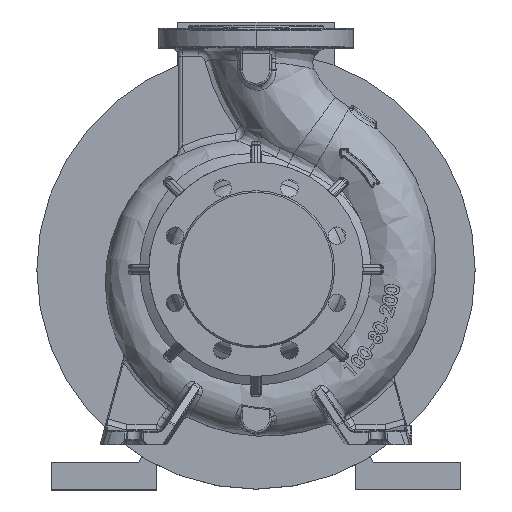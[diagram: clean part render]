
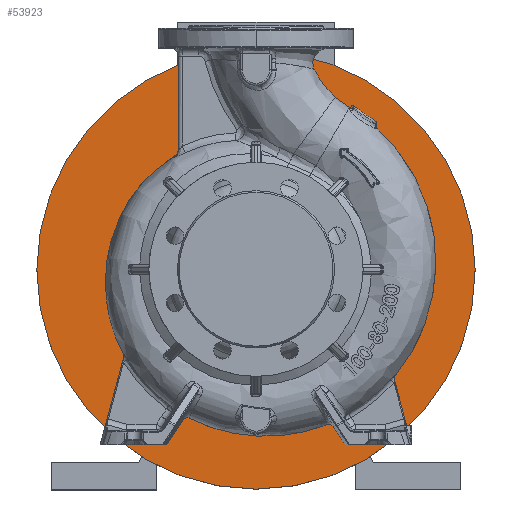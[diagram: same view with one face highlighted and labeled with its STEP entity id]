
A CAD part, top view. The second image highlights one B-rep face of the part: STEP entity #53923.
In plain terms, the highlighted planar face has unit normal (0, 0, 1).
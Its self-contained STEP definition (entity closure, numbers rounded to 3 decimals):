
#293 = ORIENTED_EDGE ( 'NONE', *, *, #24860, .T. ) ;
#4317 = CARTESIAN_POINT ( 'NONE',  ( -125., 0., -273.8 ) ) ;
#7008 = EDGE_LOOP ( 'NONE', ( #61772, #293 ) ) ;
#8285 = CARTESIAN_POINT ( 'NONE',  ( 125., 0., -273.8 ) ) ;
#9065 = AXIS2_PLACEMENT_3D ( 'NONE', #34951, #17039, #96679 ) ;
#17039 = DIRECTION ( 'NONE',  ( 0., 0., 1. ) ) ;
#21221 = CIRCLE ( 'NONE', #109383, 125. ) ;
#21544 = FACE_OUTER_BOUND ( 'NONE', #7008, .T. ) ;
#24589 = AXIS2_PLACEMENT_3D ( 'NONE', #58840, #67566, #66403 ) ;
#24860 = EDGE_CURVE ( 'NONE', #70570, #52102, #93406, .T. ) ;
#25138 = ORIENTED_EDGE ( 'NONE', *, *, #100652, .F. ) ;
#26822 = CIRCLE ( 'NONE', #24589, 125. ) ;
#27450 = VERTEX_POINT ( 'NONE', #8285 ) ;
#32702 = CIRCLE ( 'NONE', #108499, 225. ) ;
#34951 = CARTESIAN_POINT ( 'NONE',  ( 0., 0., -273.8 ) ) ;
#46573 = CARTESIAN_POINT ( 'NONE',  ( 0., 0., -273.8 ) ) ;
#48743 = CARTESIAN_POINT ( 'NONE',  ( 0., 0., -273.8 ) ) ;
#50565 = DIRECTION ( 'NONE',  ( 0., 0., -1. ) ) ;
#52062 = CARTESIAN_POINT ( 'NONE',  ( 0., 125., -273.8 ) ) ;
#52102 = VERTEX_POINT ( 'NONE', #52316 ) ;
#52316 = CARTESIAN_POINT ( 'NONE',  ( 225., 0., -273.8 ) ) ;
#53923 = ADVANCED_FACE ( 'NONE', ( #93887, #21544 ), #82504, .F. ) ;
#58840 = CARTESIAN_POINT ( 'NONE',  ( 0., 0., -273.8 ) ) ;
#61772 = ORIENTED_EDGE ( 'NONE', *, *, #69672, .T. ) ;
#64048 = DIRECTION ( 'NONE',  ( 1., 0., 0. ) ) ;
#66403 = DIRECTION ( 'NONE',  ( 1., 0., 0. ) ) ;
#67566 = DIRECTION ( 'NONE',  ( 0., 0., 1. ) ) ;
#68766 = DIRECTION ( 'NONE',  ( -1., 0., 0. ) ) ;
#69672 = EDGE_CURVE ( 'NONE', #52102, #70570, #32702, .T. ) ;
#70570 = VERTEX_POINT ( 'NONE', #93656 ) ;
#73168 = DIRECTION ( 'NONE',  ( 0., 0., 1. ) ) ;
#75313 = DIRECTION ( 'NONE',  ( 1., 0., 0. ) ) ;
#76182 = ORIENTED_EDGE ( 'NONE', *, *, #110886, .F. ) ;
#82504 = PLANE ( 'NONE',  #108388 ) ;
#89870 = VERTEX_POINT ( 'NONE', #4317 ) ;
#93406 = CIRCLE ( 'NONE', #9065, 225. ) ;
#93656 = CARTESIAN_POINT ( 'NONE',  ( -225., 0., -273.8 ) ) ;
#93887 = FACE_BOUND ( 'NONE', #98936, .T. ) ;
#94084 = DIRECTION ( 'NONE',  ( 0., 0., 1. ) ) ;
#96679 = DIRECTION ( 'NONE',  ( 1., 0., 0. ) ) ;
#98936 = EDGE_LOOP ( 'NONE', ( #25138, #76182 ) ) ;
#100652 = EDGE_CURVE ( 'NONE', #27450, #89870, #26822, .T. ) ;
#108388 = AXIS2_PLACEMENT_3D ( 'NONE', #52062, #50565, #68766 ) ;
#108499 = AXIS2_PLACEMENT_3D ( 'NONE', #46573, #73168, #64048 ) ;
#109383 = AXIS2_PLACEMENT_3D ( 'NONE', #48743, #94084, #75313 ) ;
#110886 = EDGE_CURVE ( 'NONE', #89870, #27450, #21221, .T. ) ;
